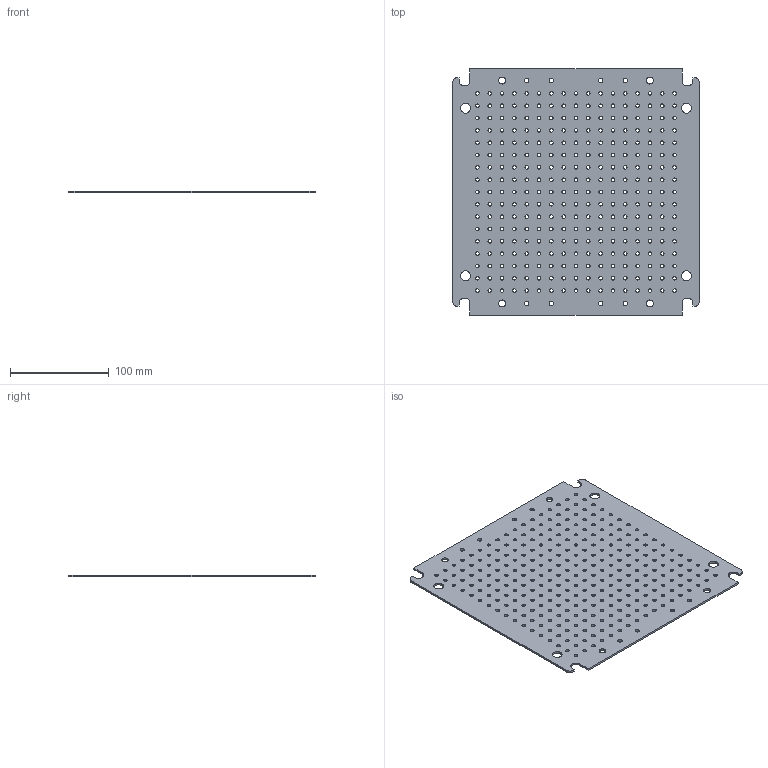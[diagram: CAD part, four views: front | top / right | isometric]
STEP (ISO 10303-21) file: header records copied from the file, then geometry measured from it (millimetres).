
FILE_DESCRIPTION (( 'STEP AP203' ), '1' );
FILE_NAME ('ECPF030030.STEP', '2020-04-07T12:39:19', ( '' ), ( '' ), 'SwSTEP 2.0', 'SolidWorks 2019', '' );
FILE_SCHEMA (( 'CONFIG_CONTROL_DESIGN' ));
Length unit declared in the file: millimetre
Products named in the file (1): ECPF030030
Bounding box: 250 x 250 x 2 mm (x, y, z)
Volume: 115979 mm3; surface area: 125250.5 mm2
Topology: 1 solids, 1 shells, 636 faces, 1902 edges, 1268 vertices
Faces by surface type: cylinder 618, plane 18
Entity records: 23479 total; most frequent: DIRECTION 4412, CARTESIAN_POINT 3807, ORIENTED_EDGE 3804, EDGE_CURVE 1902, AXIS2_PLACEMENT_3D 1873, VERTEX_POINT 1268, EDGE_LOOP 1246, CIRCLE 1236
